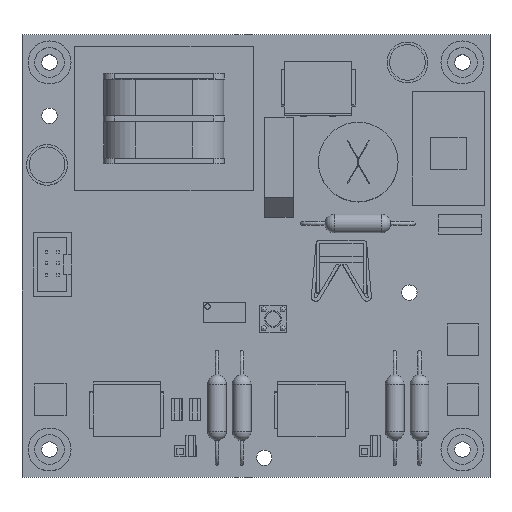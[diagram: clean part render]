
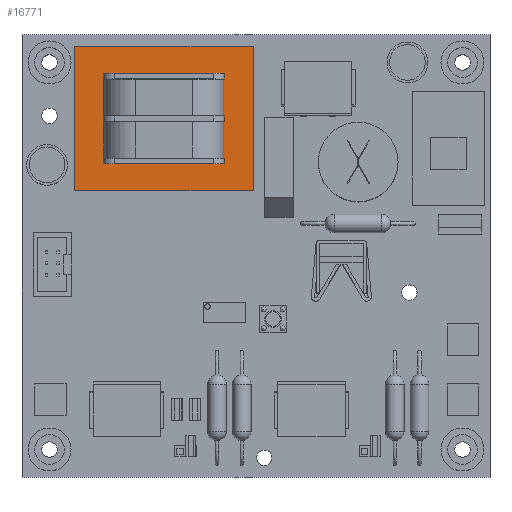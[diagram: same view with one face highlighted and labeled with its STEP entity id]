
A CAD part, top view. The second image highlights one B-rep face of the part: STEP entity #16771.
In plain terms, the highlighted planar face has unit normal (0, 0, 1).
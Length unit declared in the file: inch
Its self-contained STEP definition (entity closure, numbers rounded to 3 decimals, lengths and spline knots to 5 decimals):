
#685=FACE_BOUND($,#2464,.T.);
#1496=FACE_OUTER_BOUND($,#2463,.T.);
#2463=EDGE_LOOP($,(#14456,#14457,#14458,#14459));
#2464=EDGE_LOOP($,(#14460,#14461,#14462,#14463,#14464,#14465,#14466,#14467,
#14468,#14469,#14470,#14471,#14472,#14473,#14474,#14475,#14476,#14477,#14478,
#14479));
#4448=LINE($,#27116,#6404);
#4449=LINE($,#27118,#6405);
#4450=LINE($,#27120,#6406);
#4451=LINE($,#27121,#6407);
#4452=LINE($,#27124,#6408);
#4453=LINE($,#27126,#6409);
#4454=LINE($,#27128,#6410);
#4455=LINE($,#27130,#6411);
#4456=LINE($,#27132,#6412);
#4457=LINE($,#27134,#6413);
#4458=LINE($,#27136,#6414);
#4459=LINE($,#27138,#6415);
#4460=LINE($,#27140,#6416);
#4461=LINE($,#27142,#6417);
#4462=LINE($,#27144,#6418);
#4463=LINE($,#27146,#6419);
#4464=LINE($,#27148,#6420);
#4465=LINE($,#27150,#6421);
#4466=LINE($,#27152,#6422);
#4467=LINE($,#27154,#6423);
#4468=LINE($,#27156,#6424);
#4469=LINE($,#27158,#6425);
#4470=LINE($,#27160,#6426);
#4471=LINE($,#27161,#6427);
#6404=VECTOR($,#21767,1.308);
#6405=VECTOR($,#21768,1.6235);
#6406=VECTOR($,#21769,1.308);
#6407=VECTOR($,#21770,1.6235);
#6408=VECTOR($,#21771,0.335);
#6409=VECTOR($,#21772,0.005);
#6410=VECTOR($,#21773,0.05);
#6411=VECTOR($,#21774,1.1);
#6412=VECTOR($,#21775,0.05);
#6413=VECTOR($,#21776,0.005);
#6414=VECTOR($,#21777,0.335);
#6415=VECTOR($,#21778,0.005);
#6416=VECTOR($,#21779,0.05);
#6417=VECTOR($,#21780,0.005);
#6418=VECTOR($,#21781,0.335);
#6419=VECTOR($,#21782,0.005);
#6420=VECTOR($,#21783,0.05);
#6421=VECTOR($,#21784,1.1);
#6422=VECTOR($,#21785,0.05);
#6423=VECTOR($,#21786,0.005);
#6424=VECTOR($,#21787,0.335);
#6425=VECTOR($,#21788,0.005);
#6426=VECTOR($,#21789,0.05);
#6427=VECTOR($,#21790,0.005);
#8000=VERTEX_POINT($,#27114);
#8001=VERTEX_POINT($,#27115);
#8002=VERTEX_POINT($,#27117);
#8003=VERTEX_POINT($,#27119);
#8004=VERTEX_POINT($,#27122);
#8005=VERTEX_POINT($,#27123);
#8006=VERTEX_POINT($,#27125);
#8007=VERTEX_POINT($,#27127);
#8008=VERTEX_POINT($,#27129);
#8009=VERTEX_POINT($,#27131);
#8010=VERTEX_POINT($,#27133);
#8011=VERTEX_POINT($,#27135);
#8012=VERTEX_POINT($,#27137);
#8013=VERTEX_POINT($,#27139);
#8014=VERTEX_POINT($,#27141);
#8015=VERTEX_POINT($,#27143);
#8016=VERTEX_POINT($,#27145);
#8017=VERTEX_POINT($,#27147);
#8018=VERTEX_POINT($,#27149);
#8019=VERTEX_POINT($,#27151);
#8020=VERTEX_POINT($,#27153);
#8021=VERTEX_POINT($,#27155);
#8022=VERTEX_POINT($,#27157);
#8023=VERTEX_POINT($,#27159);
#10255=EDGE_CURVE($,#8000,#8001,#4448,.T.);
#10256=EDGE_CURVE($,#8002,#8000,#4449,.T.);
#10257=EDGE_CURVE($,#8003,#8002,#4450,.T.);
#10258=EDGE_CURVE($,#8001,#8003,#4451,.T.);
#10259=EDGE_CURVE($,#8004,#8005,#4452,.T.);
#10260=EDGE_CURVE($,#8005,#8006,#4453,.T.);
#10261=EDGE_CURVE($,#8007,#8006,#4454,.T.);
#10262=EDGE_CURVE($,#8008,#8007,#4455,.T.);
#10263=EDGE_CURVE($,#8009,#8008,#4456,.T.);
#10264=EDGE_CURVE($,#8009,#8010,#4457,.T.);
#10265=EDGE_CURVE($,#8011,#8010,#4458,.T.);
#10266=EDGE_CURVE($,#8011,#8012,#4459,.T.);
#10267=EDGE_CURVE($,#8013,#8012,#4460,.T.);
#10268=EDGE_CURVE($,#8013,#8014,#4461,.T.);
#10269=EDGE_CURVE($,#8015,#8014,#4462,.T.);
#10270=EDGE_CURVE($,#8015,#8016,#4463,.T.);
#10271=EDGE_CURVE($,#8017,#8016,#4464,.T.);
#10272=EDGE_CURVE($,#8018,#8017,#4465,.T.);
#10273=EDGE_CURVE($,#8019,#8018,#4466,.T.);
#10274=EDGE_CURVE($,#8019,#8020,#4467,.T.);
#10275=EDGE_CURVE($,#8020,#8021,#4468,.T.);
#10276=EDGE_CURVE($,#8021,#8022,#4469,.T.);
#10277=EDGE_CURVE($,#8023,#8022,#4470,.T.);
#10278=EDGE_CURVE($,#8023,#8004,#4471,.T.);
#14456=ORIENTED_EDGE($,*,*,#10255,.F.);
#14457=ORIENTED_EDGE($,*,*,#10256,.F.);
#14458=ORIENTED_EDGE($,*,*,#10257,.F.);
#14459=ORIENTED_EDGE($,*,*,#10258,.F.);
#14460=ORIENTED_EDGE($,*,*,#10259,.T.);
#14461=ORIENTED_EDGE($,*,*,#10260,.T.);
#14462=ORIENTED_EDGE($,*,*,#10261,.F.);
#14463=ORIENTED_EDGE($,*,*,#10262,.F.);
#14464=ORIENTED_EDGE($,*,*,#10263,.F.);
#14465=ORIENTED_EDGE($,*,*,#10264,.T.);
#14466=ORIENTED_EDGE($,*,*,#10265,.F.);
#14467=ORIENTED_EDGE($,*,*,#10266,.T.);
#14468=ORIENTED_EDGE($,*,*,#10267,.F.);
#14469=ORIENTED_EDGE($,*,*,#10268,.T.);
#14470=ORIENTED_EDGE($,*,*,#10269,.F.);
#14471=ORIENTED_EDGE($,*,*,#10270,.T.);
#14472=ORIENTED_EDGE($,*,*,#10271,.F.);
#14473=ORIENTED_EDGE($,*,*,#10272,.F.);
#14474=ORIENTED_EDGE($,*,*,#10273,.F.);
#14475=ORIENTED_EDGE($,*,*,#10274,.T.);
#14476=ORIENTED_EDGE($,*,*,#10275,.T.);
#14477=ORIENTED_EDGE($,*,*,#10276,.T.);
#14478=ORIENTED_EDGE($,*,*,#10277,.F.);
#14479=ORIENTED_EDGE($,*,*,#10278,.T.);
#15947=PLANE($,#17883);
#16771=ADVANCED_FACE($,(#1496,#685),#15947,.T.);
#17883=AXIS2_PLACEMENT_3D($,#27113,#21765,#21766);
#21765=DIRECTION('center_axis',(0.,0.,1.));
#21766=DIRECTION('ref_axis',(1.,0.,0.));
#21767=DIRECTION($,(0.,-1.,0.));
#21768=DIRECTION($,(1.,0.,0.));
#21769=DIRECTION($,(0.,1.,0.));
#21770=DIRECTION($,(-1.,0.,0.));
#21771=DIRECTION($,(0.,1.,0.));
#21772=DIRECTION($,(-1.,0.,0.));
#21773=DIRECTION($,(0.,-1.,0.));
#21774=DIRECTION($,(-1.,0.,0.));
#21775=DIRECTION($,(0.,1.,0.));
#21776=DIRECTION($,(-1.,0.,0.));
#21777=DIRECTION($,(0.,1.,0.));
#21778=DIRECTION($,(1.,0.,0.));
#21779=DIRECTION($,(0.,1.,0.));
#21780=DIRECTION($,(-1.,0.,0.));
#21781=DIRECTION($,(0.,1.,0.));
#21782=DIRECTION($,(1.,0.,0.));
#21783=DIRECTION($,(0.,1.,0.));
#21784=DIRECTION($,(1.,0.,0.));
#21785=DIRECTION($,(0.,-1.,0.));
#21786=DIRECTION($,(1.,0.,0.));
#21787=DIRECTION($,(0.,1.,0.));
#21788=DIRECTION($,(-1.,0.,0.));
#21789=DIRECTION($,(0.,-1.,0.));
#21790=DIRECTION($,(1.,0.,0.));
#27113=CARTESIAN_POINT('Origin',(26.798,34.24395,1.125));
#27114=CARTESIAN_POINT('',(27.60975,34.24395,1.125));
#27115=CARTESIAN_POINT('',(27.60975,32.93595,1.125));
#27116=CARTESIAN_POINT($,(27.60975,34.24395,1.125));
#27117=CARTESIAN_POINT('',(25.98625,34.24395,1.125));
#27118=CARTESIAN_POINT($,(25.98625,34.24395,1.125));
#27119=CARTESIAN_POINT('',(25.98625,32.93595,1.125));
#27120=CARTESIAN_POINT($,(25.98625,32.93595,1.125));
#27121=CARTESIAN_POINT($,(27.60975,32.93595,1.125));
#27122=CARTESIAN_POINT('',(26.253,33.61495,1.125));
#27123=CARTESIAN_POINT('',(26.253,33.94995,1.125));
#27124=CARTESIAN_POINT($,(26.253,33.61495,1.125));
#27125=CARTESIAN_POINT('',(26.248,33.94995,1.125));
#27126=CARTESIAN_POINT($,(26.253,33.94995,1.125));
#27127=CARTESIAN_POINT('',(26.248,33.99995,1.125));
#27128=CARTESIAN_POINT($,(26.248,33.99995,1.125));
#27129=CARTESIAN_POINT('',(27.348,33.99995,1.125));
#27130=CARTESIAN_POINT($,(27.348,33.99995,1.125));
#27131=CARTESIAN_POINT('',(27.348,33.94995,1.125));
#27132=CARTESIAN_POINT($,(27.348,33.94995,1.125));
#27133=CARTESIAN_POINT('',(27.343,33.94995,1.125));
#27134=CARTESIAN_POINT($,(27.348,33.94995,1.125));
#27135=CARTESIAN_POINT('',(27.343,33.61495,1.125));
#27136=CARTESIAN_POINT($,(27.343,33.61495,1.125));
#27137=CARTESIAN_POINT('',(27.348,33.61495,1.125));
#27138=CARTESIAN_POINT($,(27.343,33.61495,1.125));
#27139=CARTESIAN_POINT('',(27.348,33.56495,1.125));
#27140=CARTESIAN_POINT($,(27.348,33.56495,1.125));
#27141=CARTESIAN_POINT('',(27.343,33.56495,1.125));
#27142=CARTESIAN_POINT($,(27.348,33.56495,1.125));
#27143=CARTESIAN_POINT('',(27.343,33.22995,1.125));
#27144=CARTESIAN_POINT($,(27.343,33.22995,1.125));
#27145=CARTESIAN_POINT('',(27.348,33.22995,1.125));
#27146=CARTESIAN_POINT($,(27.343,33.22995,1.125));
#27147=CARTESIAN_POINT('',(27.348,33.17995,1.125));
#27148=CARTESIAN_POINT($,(27.348,33.17995,1.125));
#27149=CARTESIAN_POINT('',(26.248,33.17995,1.125));
#27150=CARTESIAN_POINT($,(26.248,33.17995,1.125));
#27151=CARTESIAN_POINT('',(26.248,33.22995,1.125));
#27152=CARTESIAN_POINT($,(26.248,33.22995,1.125));
#27153=CARTESIAN_POINT('',(26.253,33.22995,1.125));
#27154=CARTESIAN_POINT($,(26.248,33.22995,1.125));
#27155=CARTESIAN_POINT('',(26.253,33.56495,1.125));
#27156=CARTESIAN_POINT($,(26.253,33.22995,1.125));
#27157=CARTESIAN_POINT('',(26.248,33.56495,1.125));
#27158=CARTESIAN_POINT($,(26.253,33.56495,1.125));
#27159=CARTESIAN_POINT('',(26.248,33.61495,1.125));
#27160=CARTESIAN_POINT($,(26.248,33.61495,1.125));
#27161=CARTESIAN_POINT($,(26.248,33.61495,1.125));
